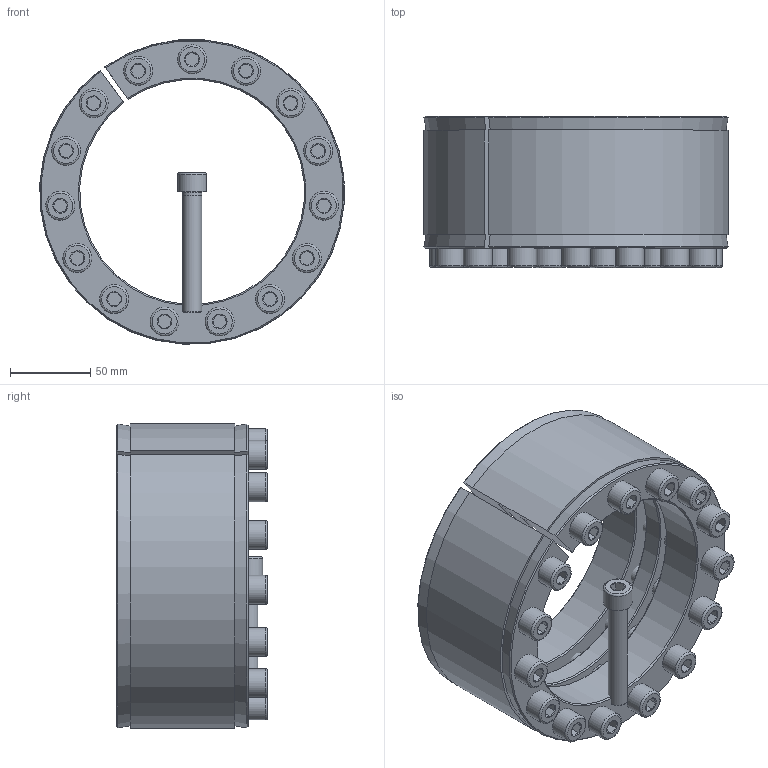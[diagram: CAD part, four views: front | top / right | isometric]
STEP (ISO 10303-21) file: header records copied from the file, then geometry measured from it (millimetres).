
FILE_DESCRIPTION( ( 'Unknown' ), '1' );
FILE_NAME( 'C:/Users/Frank/Eigene Daten/CAD/Solid Edge/KBK Karpstein/KBS Layout Baureihen/KBS 18/KBS - 140 x 190.stp', 'Unknown', ( 'Unknown' ), ( 'Unknown' ), 'XStep 1.0', 'Unknown', ' ' );
FILE_SCHEMA( ( 'automotive_design' ) );
Length unit declared in the file: millimetre
Products named in the file (3): Assem1; ISO EN DIN 4762 M12x75; KBS 18 - 140 x 190
Bounding box: 189.58 x 94 x 189.46 mm (x, y, z)
Volume: 1767590.1 mm3; surface area: 427953.9 mm2
Topology: 18 solids, 18 shells, 572 faces, 1282 edges, 750 vertices
Faces by surface type: plane 242, cylinder 162, cone 136, torus 32
Full cylindrical faces by diameter (mm): 10.106 x30, 11 x16, 12 x32, 13 x60, 18 x16
Entity records: 4138 total; most frequent: CARTESIAN_POINT 874, DIRECTION 674, ORIENTED_EDGE 544, AXIS2_PLACEMENT_3D 319, EDGE_CURVE 272, EDGE_LOOP 227, VERTEX_POINT 191, CIRCLE 191
